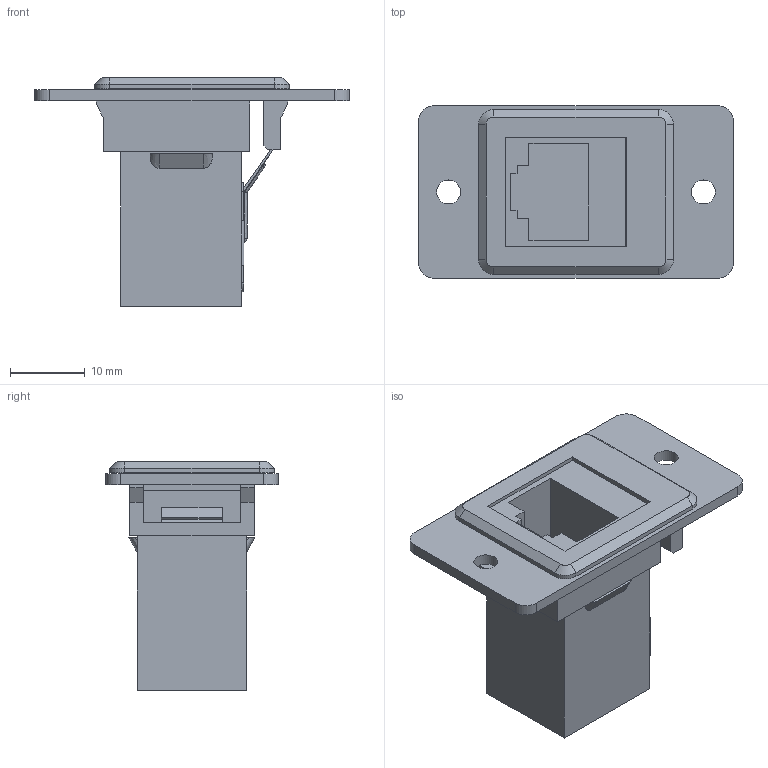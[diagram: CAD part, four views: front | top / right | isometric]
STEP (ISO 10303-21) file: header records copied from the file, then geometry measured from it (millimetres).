
FILE_DESCRIPTION(('FreeCAD Model'),'2;1');
FILE_NAME('Open CASCADE Shape Model','2026-05-19T15:01:20',(''),(''), 'Open CASCADE STEP processor 7.8','FreeCAD','Unknown');
FILE_SCHEMA(('AUTOMOTIVE_DESIGN { 1 0 10303 214 1 1 1 1 }'));
Length unit declared in the file: millimetre
Products named in the file (5): Unnamed; PMBZL_SL; SIM-BZALPL-SL; 3013BUS12xx; 3013AJSLQF6WH_1
Assembly tree (4 placements, depth 3):
  Unnamed
    PMBZL_SL
      SIM-BZALPL-SL
      3013BUS12xx
    3013AJSLQF6WH_1
Bounding box: 42 x 23 x 30.52 mm (x, y, z)
Volume: 6632.7 mm3; surface area: 6815.6 mm2
Topology: 3 solids, 3 shells, 200 faces, 557 edges, 362 vertices
Faces by surface type: bspline 178, plane 12, cylinder 10
Full cylindrical faces by diameter (mm): 3.2 x2
Entity records: 9695 total; most frequent: CARTESIAN_POINT 5999, ORIENTED_EDGE 1106, EDGE_CURVE 553, B_SPLINE_CURVE_WITH_KNOTS 499, VERTEX_POINT 362, FACE_BOUND 215, EDGE_LOOP 215, ADVANCED_FACE 200
